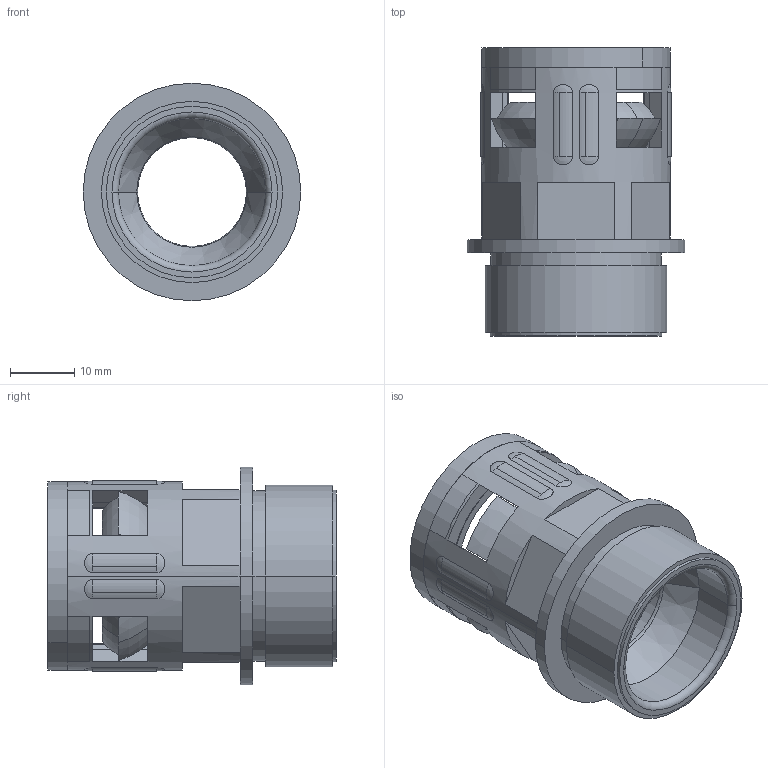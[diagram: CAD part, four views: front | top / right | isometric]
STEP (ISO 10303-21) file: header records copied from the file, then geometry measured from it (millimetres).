
FILE_DESCRIPTION (( 'STEP AP203' ), '1' );
FILE_NAME ('WQG-P21-AD21.2.STEP', '2020-03-12T06:49:48', ( '' ), ( '' ), 'SwSTEP 2.0', 'SolidWorks 2016', '' );
FILE_SCHEMA (( 'CONFIG_CONTROL_DESIGN' ));
Length unit declared in the file: millimetre
Products named in the file (4): WQG-P21-AD21.2; GFD-AD21.2; WQG-P21-AD21.2-01; NSK-AD21.2
Assembly tree (3 placements, depth 2):
  WQG-P21-AD21.2
    WQG-P21-AD21.2-01
    GFD-AD21.2
    NSK-AD21.2
Bounding box: 34 x 45 x 34 mm (x, y, z)
Volume: 12630 mm3; surface area: 16021.2 mm2
Topology: 6 solids, 7 shells, 317 faces, 801 edges, 490 vertices
Faces by surface type: plane 119, cone 87, cylinder 52, torus 43, sphere 16
Entity records: 10226 total; most frequent: CARTESIAN_POINT 2214, DIRECTION 1704, ORIENTED_EDGE 1538, EDGE_CURVE 769, AXIS2_PLACEMENT_3D 692, VERTEX_POINT 474, CIRCLE 369, EDGE_LOOP 349
